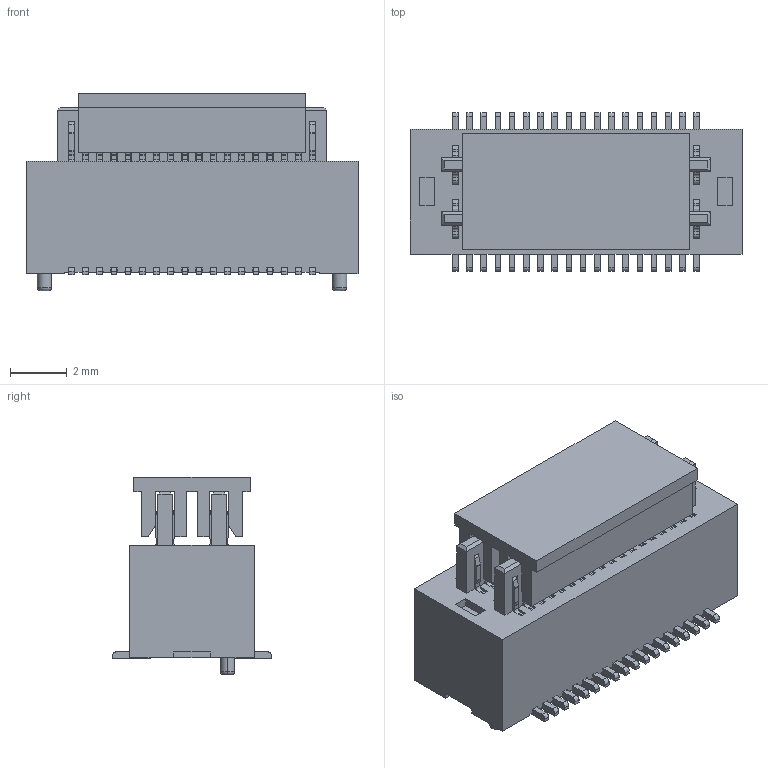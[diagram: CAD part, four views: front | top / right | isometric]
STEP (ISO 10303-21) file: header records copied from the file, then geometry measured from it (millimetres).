
FILE_DESCRIPTION(('CATIA V5 STEP Exchange'),'2;1');
FILE_NAME('F:\黄富鸿\板对板\PBB05\公座\H4.0\编带+盖\HC-PBB05-2-36-M-H4.0-G1-R-P-04（BTB0.5 双槽 公座 立贴 带柱 编带+盖）-HCTL.stp','2025-12-09T09:17:19+00:00',('none'),('none'),'CATIA Version 5 Release 20 GA (IN-10)','CATIA V5 STEP AP203','none');
FILE_SCHEMA(('CONFIG_CONTROL_DESIGN'));
Products named in the file (1): Part2
Bounding box: 11.7 x 5.6 x 6.95 mm (x, y, z)
Volume: 255.3 mm3; surface area: 1525.9 mm2
Topology: 38 solids, 38 shells, 2312 faces, 6966 edges, 4592 vertices
Faces by surface type: plane 1584, cylinder 724, torus 4
Entity records: 66715 total; most frequent: ORIENTED_EDGE 13932, CARTESIAN_POINT 12100, DIRECTION 7544, EDGE_CURVE 6966, VECTOR 5438, LINE 5438, VERTEX_POINT 4592, EDGE_LOOP 2318
